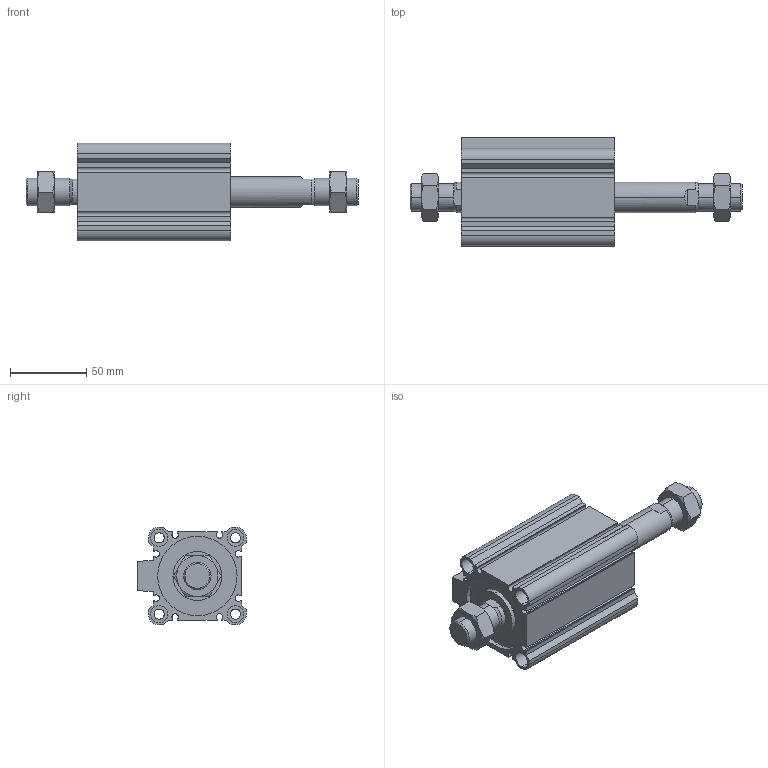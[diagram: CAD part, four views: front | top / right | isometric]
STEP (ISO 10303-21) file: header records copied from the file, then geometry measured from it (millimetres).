
FILE_DESCRIPTION (( 'STEP AP203' ), '1' );
FILE_NAME ('CCMB50-50M-P.STEP', '2020-08-10T11:47:15', ( '' ), ( '' ), 'SwSTEP 2.0', 'SolidWorks 2019', '' );
FILE_SCHEMA (( 'CONFIG_CONTROL_DESIGN' ));
Length unit declared in the file: millimetre
Products named in the file (1): CCMB50-50M-P
Bounding box: 217.5 x 71 x 64 mm (x, y, z)
Volume: 297789.4 mm3; surface area: 93631.7 mm2
Topology: 4 solids, 4 shells, 220 faces, 534 edges, 340 vertices
Faces by surface type: plane 98, cylinder 78, cone 44
Entity records: 7173 total; most frequent: CARTESIAN_POINT 1867, DIRECTION 1116, ORIENTED_EDGE 1068, EDGE_CURVE 534, AXIS2_PLACEMENT_3D 425, VERTEX_POINT 340, VECTOR 266, LINE 266
